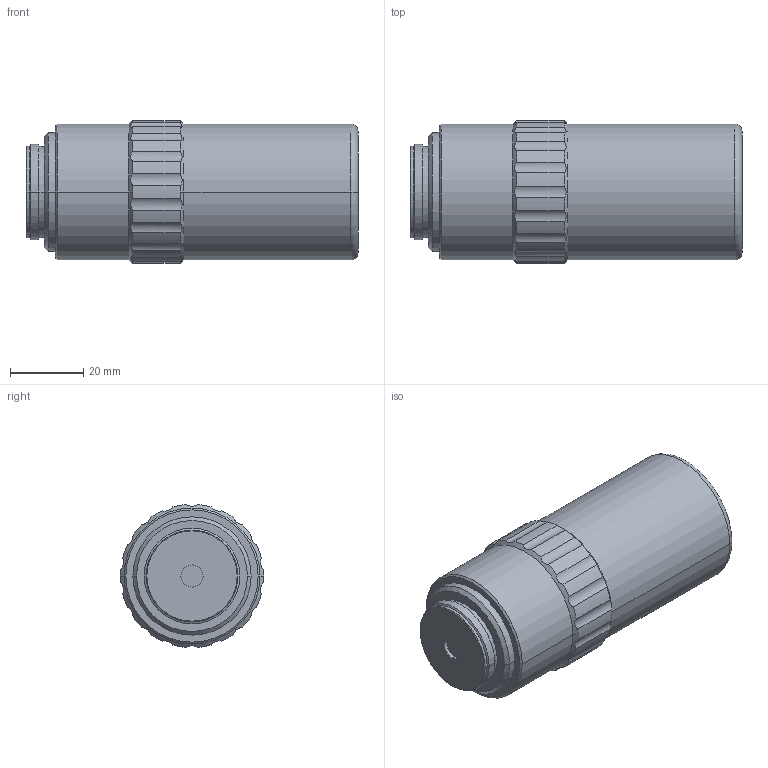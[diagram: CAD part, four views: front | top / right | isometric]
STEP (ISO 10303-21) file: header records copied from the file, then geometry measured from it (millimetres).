
FILE_DESCRIPTION(('Creo Elements/Direct Modeling STEP Export'),'2;1');
FILE_NAME('LCDPlanApoNIRHR50x-t0.7_378-869-5.stp','2020-03-17T 8:55:26',(''),(''),'Creo Elements/Direct Modeling STEP processor for AP214 (Solid Model)','Creo Elements/Direct Modeling 18.1I 13-Aug-2016 (C) Parametric Technology GmbH','');
FILE_SCHEMA(('AUTOMOTIVE_DESIGN { 1 0 10303 214 1 1 1 1 }'));
Length unit declared in the file: millimetre
Products named in the file (1): LPA-NIRHR50x-t0.7_378-869-5
Bounding box: 90.4 x 39 x 38.88 mm (x, y, z)
Volume: 94636.8 mm3; surface area: 12564.4 mm2
Topology: 1 solids, 1 shells, 73 faces, 182 edges, 116 vertices
Faces by surface type: cylinder 52, cone 12, plane 7, torus 2
Entity records: 4357 total; most frequent: CARTESIAN_POINT 2709, ORIENTED_EDGE 364, DIRECTION 298, EDGE_CURVE 182, AXIS2_PLACEMENT_3D 117, VERTEX_POINT 116, EDGE_LOOP 78, FACE_OUTER_BOUND 73
